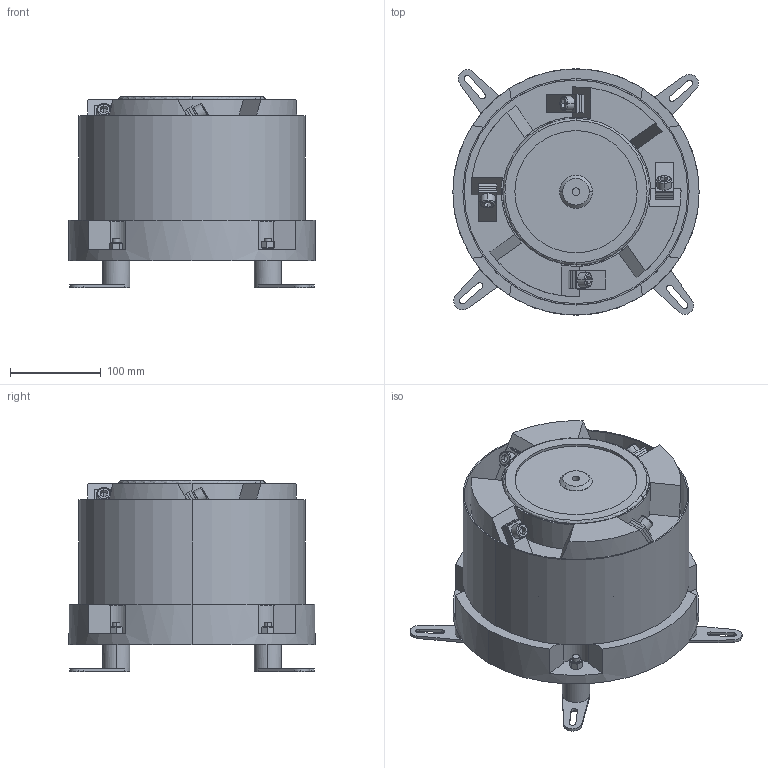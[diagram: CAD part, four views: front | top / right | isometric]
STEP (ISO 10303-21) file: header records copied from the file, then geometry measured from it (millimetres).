
FILE_DESCRIPTION(/* description */ (''),/* implementation_level */ '2;1');
FILE_NAME(/* name */ 'DE250 铝盖.stp',/* time_stamp */ '2025-07-17T20:52:32+08:00',/* author */ (''),/* organization */ (''),/* preprocessor_version */ 'ST-DEVELOPER v18.102',/* originating_system */ 'SIEMENS PLM Software NX2206.1700',/* authorisation */ '');
FILE_SCHEMA (('AP203_CONFIGURATION_CONTROLLED_3D_DESIGN_OF_MECHANICAL_PARTS_AND_ASSEMBLIES_MIM_LF { 1 0 10303 403 2 1 2}'));
Length unit declared in the file: millimetre
Products named in the file (1): DE250  铝盖 2023_step_objects
Bounding box: 272 x 272 x 212 mm (x, y, z)
Volume: 5879141.5 mm3; surface area: 590198.2 mm2
Topology: 31 solids, 31 shells, 544 faces, 1270 edges, 810 vertices
Faces by surface type: plane 275, cylinder 177, cone 62, torus 30
Entity records: 16471 total; most frequent: CARTESIAN_POINT 3505, DIRECTION 2730, ORIENTED_EDGE 2524, EDGE_CURVE 1262, AXIS2_PLACEMENT_3D 1040, VERTEX_POINT 810, LINE 650, VECTOR 650
